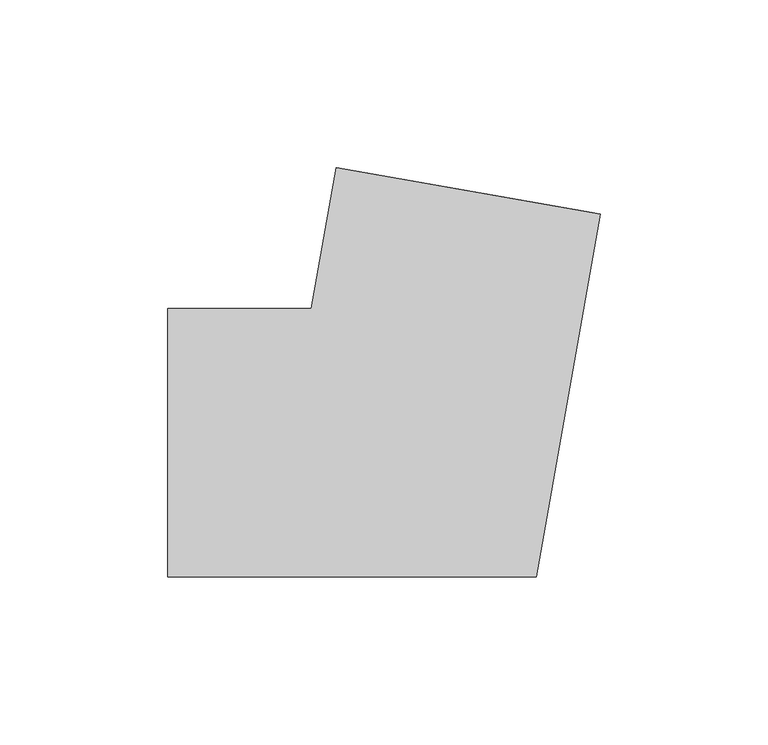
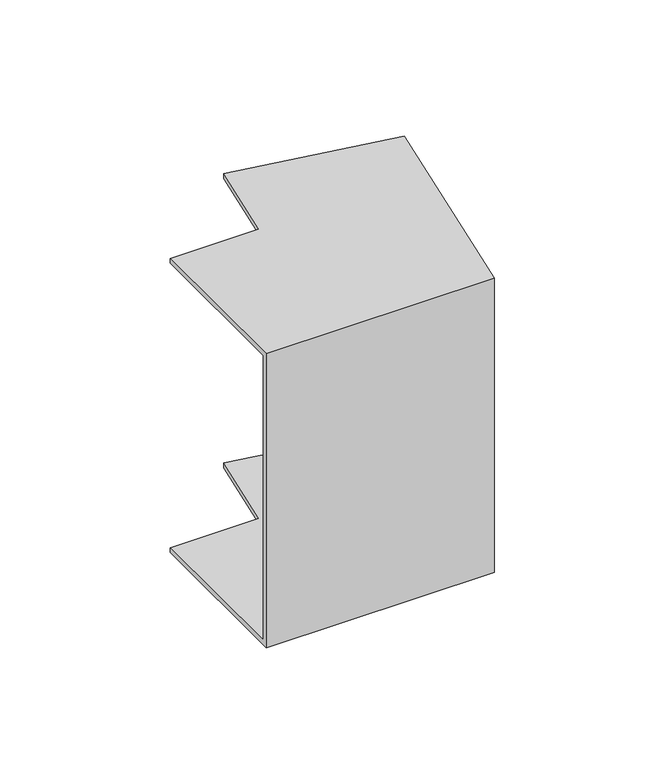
"""IFC4 building model written with IfcOpenShell, lengths in millimetres: cable carrier fitting geometry, КНС_УголВнутренний_ILC_DKC : Угол внутренний_DKC."""

from ifc_helpers import new_model, si_unit, origin, place, context, project, spatial, faceted_brep, source, transform, mapped, element, save


def cable_carrier_fitting_c251a1f0(model_context):
    return source(origin(), model_context, "Body", "Brep", [
        faceted_brep([(-76.3234687, -40.0, 75.0), (-76.3234687, 40.0, 75.0), (-76.3234687, 40.0, 72.5), (-76.3234687, -37.5, 72.5), (-76.3234687, -37.5, -72.5), (-76.3234687, 40.0, -72.5), (-76.3234687, 40.0, -75.0), (-76.3234687, -40.0, -75.0), (52.6457414, 68.2180166, 75.0), (52.6457414, 68.2180166, -75.0), (-26.1388789, 82.1098708, -75.0), (-26.1388789, 82.1098708, -72.5), (50.183722, 68.652137, -72.5), (50.183722, 68.652137, 72.5), (-26.1388789, 82.1098708, 72.5), (-26.1388789, 82.1098708, 75.0), (33.5639852, -40.0, 75.0), (-33.5639852, 40.0, 75.0), (-33.5639852, 40.0, 72.5), (31.4662362, -37.5, 72.5), (31.4662362, -37.5, -72.5), (-33.5639852, 40.0, -72.5), (-33.5639852, 40.0, -75.0), (33.5639852, -40.0, -75.0)], [[[0, 1, 2, 3, 4, 5, 6, 7]], [[8, 9, 10, 11, 12, 13, 14, 15]], [[1, 0, 16, 8, 15, 17]], [[2, 1, 17, 18]], [[3, 2, 18, 14, 13, 19]], [[4, 3, 19, 20]], [[5, 4, 20, 12, 11, 21]], [[6, 5, 21, 22]], [[7, 6, 22, 10, 9, 23]], [[0, 7, 23, 16]], [[18, 17, 15, 14]], [[20, 19, 13, 12]], [[22, 21, 11, 10]], [[16, 23, 9, 8]]]),
    ])


if __name__ == "__main__":
    model = new_model("IFC4")
    model_context = context("Model", 3, world=origin())
    ifc_project = project(units=[si_unit("LENGTHUNIT", "METRE", prefix="MILLI")], contexts=[model_context])
    site = spatial("IfcSite", under=ifc_project)
    building = spatial("IfcBuilding", under=site)
    placement = place(None, origin())
    cable_carrier_fitting_shape = cable_carrier_fitting_c251a1f0(model_context)
    element("IfcCableCarrierFitting", 1, ObjectType="КНС_УголВнутренний_ILC_DKC : Угол внутренний_DKC", at=placement, inside=building, context=model_context, shape_type="MappedRepresentation", body=[
        mapped(cable_carrier_fitting_shape, transform((0.0, 0.0, 0.0), x_axis=(1.0, 0.0, 0.0), y_axis=(0.0, 1.0, 0.0), z_axis=(0.0, 0.0, 1.0))),
    ])
    save(model, "model.ifc")
